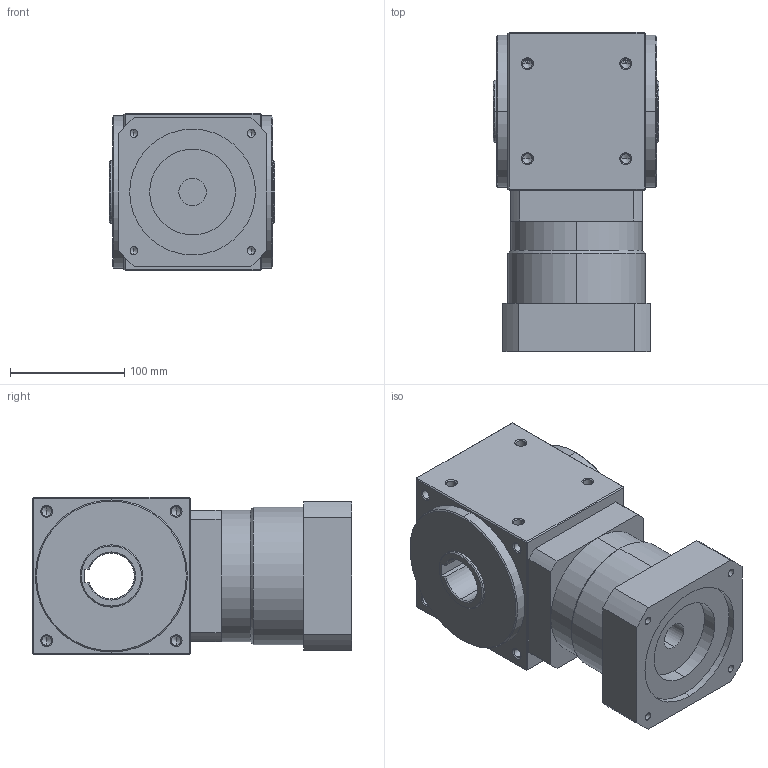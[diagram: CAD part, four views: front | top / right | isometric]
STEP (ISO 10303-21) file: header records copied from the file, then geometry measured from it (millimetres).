
FILE_DESCRIPTION (( 'STEP AP214' ), '1' );
FILE_NAME ('RXW135AS-L1-CR-22-110-130-m8.STEP', '2020-11-27T01:55:38', ( '微软用户' ), ( '微软中国' ), 'SwSTEP 2.0', 'SolidWorks 2014', '' );
FILE_SCHEMA (( 'AUTOMOTIVE_DESIGN' ));
Length unit declared in the file: millimetre
Products named in the file (2): RXW135AS-L1-CR-22-110-130-m8
Bounding box: 145 x 279 x 138 mm (x, y, z)
Volume: 4049702.1 mm3; surface area: 249136.7 mm2
Topology: 2 solids, 2 shells, 235 faces, 560 edges, 306 vertices
Faces by surface type: cone 104, cylinder 79, plane 52
Entity records: 8476 total; most frequent: DIRECTION 1192, CARTESIAN_POINT 1179, ORIENTED_EDGE 1024, EDGE_CURVE 512, AXIS2_PLACEMENT_3D 463, VERTEX_POINT 306, EDGE_LOOP 270, LINE 266
